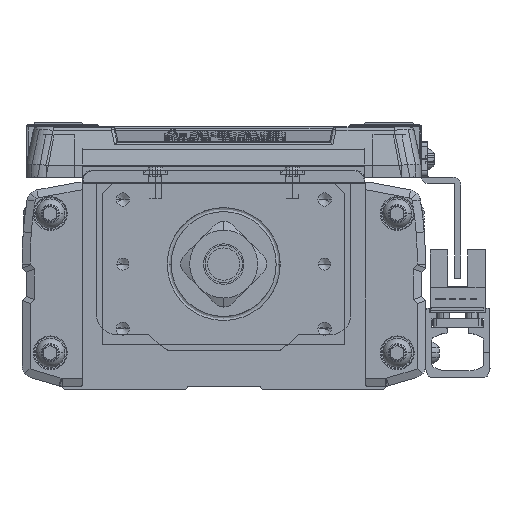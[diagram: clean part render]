
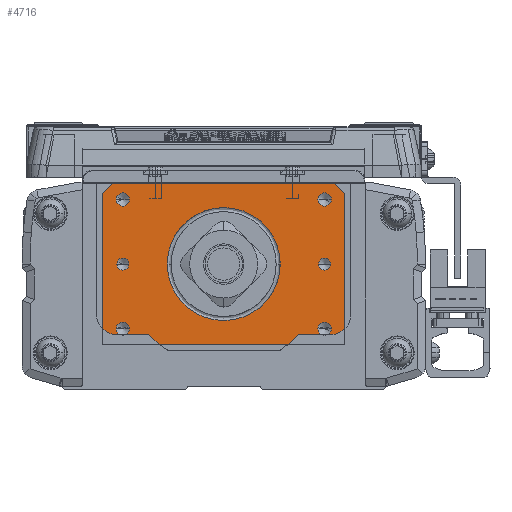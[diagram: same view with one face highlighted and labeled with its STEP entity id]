
A CAD part, left-side view. The second image highlights one B-rep face of the part: STEP entity #4716.
In plain terms, the highlighted planar face has unit normal (-1, 0, 0).
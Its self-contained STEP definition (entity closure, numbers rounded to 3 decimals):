
#4716=ADVANCED_FACE('',(#10990,#10991,#10992,#10993,#10994,#10995,#10996,#10997),#10998,.T.);
#10990=FACE_BOUND('',#19499,.T.);
#10991=FACE_BOUND('',#19500,.T.);
#10992=FACE_BOUND('',#19501,.T.);
#10993=FACE_BOUND('',#19502,.T.);
#10994=FACE_BOUND('',#19503,.T.);
#10995=FACE_BOUND('',#19504,.T.);
#10996=FACE_BOUND('',#19505,.T.);
#10997=FACE_OUTER_BOUND('',#19506,.T.);
#10998=PLANE('',#19507);
#19499=EDGE_LOOP('',(#32743,#32744));
#19500=EDGE_LOOP('',(#32745,#32746));
#19501=EDGE_LOOP('',(#32747,#32748));
#19502=EDGE_LOOP('',(#32749,#32750));
#19503=EDGE_LOOP('',(#32751,#32752));
#19504=EDGE_LOOP('',(#32753,#32754));
#19505=EDGE_LOOP('',(#32755,#32756,#32757));
#19506=EDGE_LOOP('',(#32758,#32759,#32760,#32761,#32762,#32763));
#19507=AXIS2_PLACEMENT_3D('',#32764,#32765,#32766);
#32743=ORIENTED_EDGE('',*,*,#53082,.T.);
#32744=ORIENTED_EDGE('',*,*,#52325,.T.);
#32745=ORIENTED_EDGE('',*,*,#50789,.T.);
#32746=ORIENTED_EDGE('',*,*,#53083,.T.);
#32747=ORIENTED_EDGE('',*,*,#53084,.T.);
#32748=ORIENTED_EDGE('',*,*,#52584,.T.);
#32749=ORIENTED_EDGE('',*,*,#53085,.T.);
#32750=ORIENTED_EDGE('',*,*,#53086,.T.);
#32751=ORIENTED_EDGE('',*,*,#53087,.T.);
#32752=ORIENTED_EDGE('',*,*,#53088,.T.);
#32753=ORIENTED_EDGE('',*,*,#53089,.T.);
#32754=ORIENTED_EDGE('',*,*,#53090,.T.);
#32755=ORIENTED_EDGE('',*,*,#53091,.T.);
#32756=ORIENTED_EDGE('',*,*,#53092,.T.);
#32757=ORIENTED_EDGE('',*,*,#53093,.T.);
#32758=ORIENTED_EDGE('',*,*,#51292,.F.);
#32759=ORIENTED_EDGE('',*,*,#49992,.F.);
#32760=ORIENTED_EDGE('',*,*,#53094,.T.);
#32761=ORIENTED_EDGE('',*,*,#53095,.T.);
#32762=ORIENTED_EDGE('',*,*,#53096,.F.);
#32763=ORIENTED_EDGE('',*,*,#53097,.T.);
#32764=CARTESIAN_POINT('',(-580.,0.,-20.));
#32765=DIRECTION('',(-1.0,0.,0.));
#32766=DIRECTION('',(0.,-1.0,0.));
#49992=EDGE_CURVE('',#60200,#60198,#60202,.T.);
#50789=EDGE_CURVE('',#61605,#61610,#61612,.T.);
#51292=EDGE_CURVE('',#60198,#62447,#62448,.T.);
#52325=EDGE_CURVE('',#64096,#64093,#64097,.T.);
#52584=EDGE_CURVE('',#64505,#64503,#64506,.T.);
#53082=EDGE_CURVE('',#64093,#64096,#65285,.T.);
#53083=EDGE_CURVE('',#61610,#61605,#65286,.T.);
#53084=EDGE_CURVE('',#64503,#64505,#65287,.T.);
#53085=EDGE_CURVE('',#65288,#65289,#65290,.T.);
#53086=EDGE_CURVE('',#65289,#65288,#65291,.T.);
#53087=EDGE_CURVE('',#65292,#65293,#65294,.T.);
#53088=EDGE_CURVE('',#65293,#65292,#65295,.T.);
#53089=EDGE_CURVE('',#65296,#65297,#65298,.T.);
#53090=EDGE_CURVE('',#65297,#65296,#65299,.T.);
#53091=EDGE_CURVE('',#65300,#65301,#65302,.T.);
#53092=EDGE_CURVE('',#65301,#65303,#65304,.T.);
#53093=EDGE_CURVE('',#65303,#65300,#65305,.T.);
#53094=EDGE_CURVE('',#60200,#65306,#65307,.T.);
#53095=EDGE_CURVE('',#65306,#65308,#65309,.T.);
#53096=EDGE_CURVE('',#65310,#65308,#65311,.T.);
#53097=EDGE_CURVE('',#65310,#62447,#65312,.T.);
#60198=VERTEX_POINT('',#74581);
#60200=VERTEX_POINT('',#74584);
#60202=LINE('',#74587,#74588);
#61605=VERTEX_POINT('',#76529);
#61610=VERTEX_POINT('',#76535);
#61612=CIRCLE('',#76538,1.5);
#62447=VERTEX_POINT('',#77791);
#62448=LINE('',#77792,#77793);
#64093=VERTEX_POINT('',#80080);
#64096=VERTEX_POINT('',#80084);
#64097=CIRCLE('',#80085,1.5);
#64503=VERTEX_POINT('',#80659);
#64505=VERTEX_POINT('',#80662);
#64506=CIRCLE('',#80663,1.65);
#65285=CIRCLE('',#81737,1.5);
#65286=CIRCLE('',#81738,1.5);
#65287=CIRCLE('',#81739,1.65);
#65288=VERTEX_POINT('',#81740);
#65289=VERTEX_POINT('',#81741);
#65290=CIRCLE('',#81742,1.65);
#65291=CIRCLE('',#81743,1.65);
#65292=VERTEX_POINT('',#81744);
#65293=VERTEX_POINT('',#81745);
#65294=CIRCLE('',#81746,1.65);
#65295=CIRCLE('',#81747,1.65);
#65296=VERTEX_POINT('',#81748);
#65297=VERTEX_POINT('',#81749);
#65298=CIRCLE('',#81750,1.65);
#65299=CIRCLE('',#81751,1.65);
#65300=VERTEX_POINT('',#81752);
#65301=VERTEX_POINT('',#81753);
#65302=CIRCLE('',#81754,14.0);
#65303=VERTEX_POINT('',#81755);
#65304=CIRCLE('',#81756,14.0);
#65305=CIRCLE('',#81757,14.0);
#65306=VERTEX_POINT('',#81758);
#65307=LINE('',#81759,#81760);
#65308=VERTEX_POINT('',#81761);
#65309=LINE('',#81762,#81763);
#65310=VERTEX_POINT('',#81764);
#65311=LINE('',#81765,#81766);
#65312=LINE('',#81767,#81768);
#74581=CARTESIAN_POINT('',(-580.,30.,17.5));
#74584=CARTESIAN_POINT('',(-580.,30.,-20.));
#74587=CARTESIAN_POINT('',(-580.,30.,-20.));
#74588=VECTOR('',#92168,10.0);
#76529=CARTESIAN_POINT('',(-580.,26.5,0.));
#76535=CARTESIAN_POINT('',(-580.,23.5,0.));
#76538=AXIS2_PLACEMENT_3D('',#93294,#93295,#93296);
#77791=CARTESIAN_POINT('',(-580.,27.5,20.));
#77792=CARTESIAN_POINT('',(-580.,31.25,16.25));
#77793=VECTOR('',#93981,10.);
#80080=CARTESIAN_POINT('',(-580.,-26.5,0.));
#80084=CARTESIAN_POINT('',(-580.,-23.5,0.));
#80085=AXIS2_PLACEMENT_3D('',#95347,#95348,#95349);
#80659=CARTESIAN_POINT('',(-580.,-26.65,-16.));
#80662=CARTESIAN_POINT('',(-580.,-23.35,-16.));
#80663=AXIS2_PLACEMENT_3D('',#95711,#95712,#95713);
#81737=AXIS2_PLACEMENT_3D('',#96398,#96399,#96400);
#81738=AXIS2_PLACEMENT_3D('',#96401,#96402,#96403);
#81739=AXIS2_PLACEMENT_3D('',#96404,#96405,#96406);
#81740=CARTESIAN_POINT('',(-580.,26.65,-16.));
#81741=CARTESIAN_POINT('',(-580.,23.35,-16.));
#81742=AXIS2_PLACEMENT_3D('',#96407,#96408,#96409);
#81743=AXIS2_PLACEMENT_3D('',#96410,#96411,#96412);
#81744=CARTESIAN_POINT('',(-580.,26.65,16.));
#81745=CARTESIAN_POINT('',(-580.,23.35,16.));
#81746=AXIS2_PLACEMENT_3D('',#96413,#96414,#96415);
#81747=AXIS2_PLACEMENT_3D('',#96416,#96417,#96418);
#81748=CARTESIAN_POINT('',(-580.,-26.65,16.));
#81749=CARTESIAN_POINT('',(-580.,-23.35,16.));
#81750=AXIS2_PLACEMENT_3D('',#96419,#96420,#96421);
#81751=AXIS2_PLACEMENT_3D('',#96422,#96423,#96424);
#81752=CARTESIAN_POINT('',(-580.,0.,-14.));
#81753=CARTESIAN_POINT('',(-580.,14.,0.));
#81754=AXIS2_PLACEMENT_3D('',#96425,#96426,#96427);
#81755=CARTESIAN_POINT('',(-580.,-14.,0.));
#81756=AXIS2_PLACEMENT_3D('',#96428,#96429,#96430);
#81757=AXIS2_PLACEMENT_3D('',#96431,#96432,#96433);
#81758=CARTESIAN_POINT('',(-580.,-30.,-20.));
#81759=CARTESIAN_POINT('',(-580.,30.,-20.));
#81760=VECTOR('',#96434,10.0);
#81761=CARTESIAN_POINT('',(-580.,-30.,17.5));
#81762=CARTESIAN_POINT('',(-580.,-30.,-20.));
#81763=VECTOR('',#96435,10.0);
#81764=CARTESIAN_POINT('',(-580.,-27.5,20.));
#81765=CARTESIAN_POINT('',(-580.,-31.25,16.25));
#81766=VECTOR('',#96436,10.);
#81767=CARTESIAN_POINT('',(-580.,30.,20.));
#81768=VECTOR('',#96437,10.0);
#92168=DIRECTION('',(0.,0.,1.0));
#93294=CARTESIAN_POINT('',(-580.,25.,0.));
#93295=DIRECTION('',(1.0,0.,0.));
#93296=DIRECTION('',(0.,1.0,0.));
#93981=DIRECTION('',(0.,-0.707,0.707));
#95347=CARTESIAN_POINT('',(-580.,-25.,0.));
#95348=DIRECTION('',(1.0,0.,0.));
#95349=DIRECTION('',(0.,-1.0,0.));
#95711=CARTESIAN_POINT('',(-580.,-25.,-16.));
#95712=DIRECTION('',(1.0,0.,0.));
#95713=DIRECTION('',(0.,-1.0,0.));
#96398=CARTESIAN_POINT('',(-580.,-25.,0.));
#96399=DIRECTION('',(1.0,0.,0.));
#96400=DIRECTION('',(0.,-1.0,0.));
#96401=CARTESIAN_POINT('',(-580.,25.,0.));
#96402=DIRECTION('',(1.0,0.,0.));
#96403=DIRECTION('',(0.,1.0,0.));
#96404=CARTESIAN_POINT('',(-580.,-25.,-16.));
#96405=DIRECTION('',(1.0,0.,0.));
#96406=DIRECTION('',(0.,-1.0,0.));
#96407=CARTESIAN_POINT('',(-580.,25.,-16.));
#96408=DIRECTION('',(1.0,0.,0.));
#96409=DIRECTION('',(0.,1.0,0.));
#96410=CARTESIAN_POINT('',(-580.,25.,-16.));
#96411=DIRECTION('',(1.0,0.,0.));
#96412=DIRECTION('',(0.,1.0,0.));
#96413=CARTESIAN_POINT('',(-580.,25.,16.));
#96414=DIRECTION('',(1.0,0.,0.));
#96415=DIRECTION('',(0.,1.0,0.));
#96416=CARTESIAN_POINT('',(-580.,25.,16.));
#96417=DIRECTION('',(1.0,0.,0.));
#96418=DIRECTION('',(0.,1.0,0.));
#96419=CARTESIAN_POINT('',(-580.,-25.,16.));
#96420=DIRECTION('',(1.0,0.,0.));
#96421=DIRECTION('',(0.,-1.0,0.));
#96422=CARTESIAN_POINT('',(-580.,-25.,16.));
#96423=DIRECTION('',(1.0,0.,0.));
#96424=DIRECTION('',(0.,-1.0,0.));
#96425=CARTESIAN_POINT('',(-580.,0.,0.));
#96426=DIRECTION('',(1.0,0.,0.));
#96427=DIRECTION('',(0.,0.,1.0));
#96428=CARTESIAN_POINT('',(-580.,0.,0.));
#96429=DIRECTION('',(1.0,0.,0.));
#96430=DIRECTION('',(0.,0.,1.0));
#96431=CARTESIAN_POINT('',(-580.,0.,0.));
#96432=DIRECTION('',(1.0,0.,0.));
#96433=DIRECTION('',(0.,0.,1.0));
#96434=DIRECTION('',(0.,-1.0,0.));
#96435=DIRECTION('',(0.,0.,1.0));
#96436=DIRECTION('',(0.0,-0.707,-0.707));
#96437=DIRECTION('',(0.,1.0,0.));
